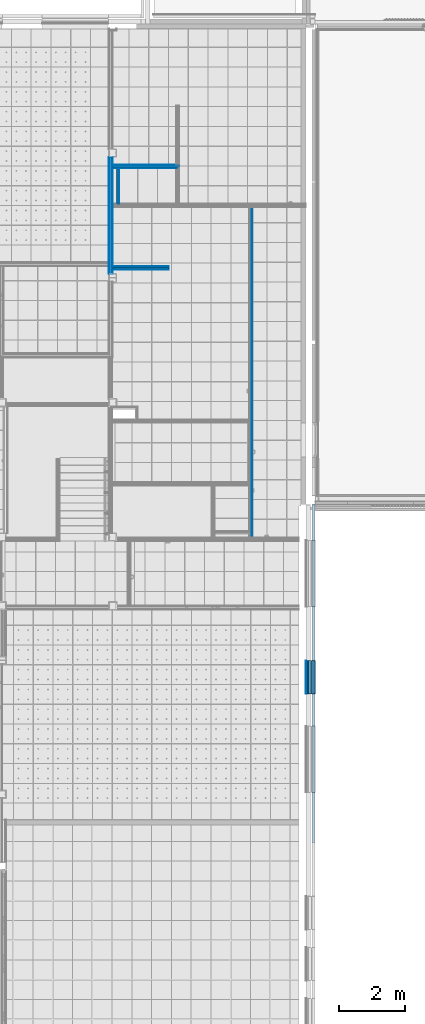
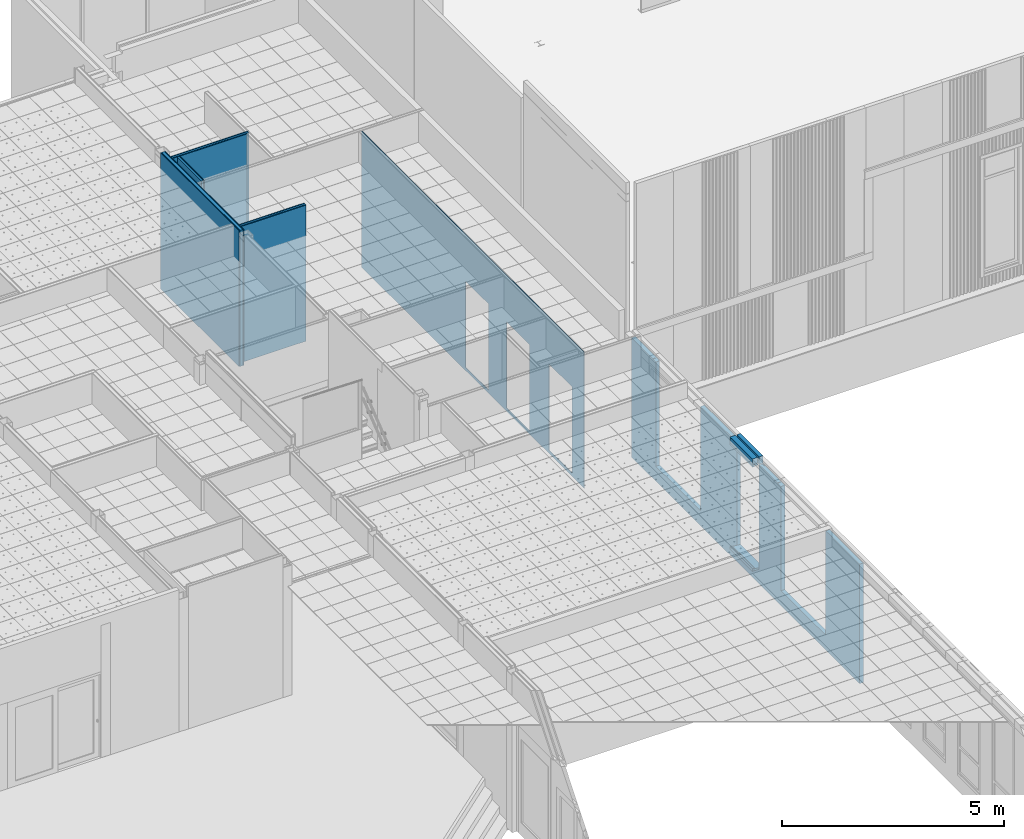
# One storey, part 86 of 338: 29 building element parts, 6 openings, 8 elements without a shape of their own.
"""IFC2X3 building model written with IfcOpenShell, lengths in millimetres."""

from ifc_helpers import new_model, entity, si_unit, converted_unit, derived_unit, money_unit, direction, frame, origin_with_axes, place, context, subcontext, project, spatial, faceted_brep, material, type_object, element, aggregate, save


model = new_model("IFC2X3")

# Units and contexts
model_context = context("Model", 3, precision=0.01, world=origin_with_axes(), true_north=direction((0.0, 1.0)))
plan_context = context("Plan", 3, precision=0.01, world=origin_with_axes(), true_north=direction((0.0, 1.0)))
body_context = subcontext(model_context, "Body", "Model", "MODEL_VIEW")
ifc_project = project(units=[si_unit("LENGTHUNIT", "METRE", prefix="MILLI"), si_unit("AREAUNIT", "SQUARE_METRE"), si_unit("VOLUMEUNIT", "CUBIC_METRE"), converted_unit("PLANEANGLEUNIT", "DEGREE", entity("IfcPlaneAngleMeasure", 0.0174532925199), si_unit("PLANEANGLEUNIT", "RADIAN"), dimensions=[0, 0, 0, 0, 0, 0, 0]), money_unit("EUR"), converted_unit("TIMEUNIT", "Year", entity("IfcTimeMeasure", 31556926.0), si_unit("TIMEUNIT", "SECOND"), dimensions=[0, 0, 1, 0, 0, 0, 0]), si_unit("MASSUNIT", "GRAM", prefix="KILO"), si_unit("THERMODYNAMICTEMPERATUREUNIT", "DEGREE_CELSIUS"), si_unit("LUMINOUSINTENSITYUNIT", "LUMEN"), si_unit("ENERGYUNIT", "JOULE", prefix="MEGA"), derived_unit("THERMALCONDUCTANCEUNIT", [(si_unit("POWERUNIT", "WATT"), 1), (si_unit("LENGTHUNIT", "METRE"), -1), (si_unit("THERMODYNAMICTEMPERATUREUNIT", "KELVIN"), -1)]), derived_unit("SPECIFICHEATCAPACITYUNIT", [(si_unit("ENERGYUNIT", "JOULE"), 1), (si_unit("MASSUNIT", "GRAM", prefix="KILO"), -1), (si_unit("THERMODYNAMICTEMPERATUREUNIT", "KELVIN"), -1)]), derived_unit("MASSDENSITYUNIT", [(si_unit("MASSUNIT", "GRAM", prefix="KILO"), 1), (si_unit("VOLUMEUNIT", "CUBIC_METRE"), -1)])], contexts=[model_context, plan_context])

# Site, building, storey
site_placement = place(None, origin_with_axes())
site = spatial("IfcSite", under=ifc_project, at=site_placement, Name="Fortuinstraat Woensdrecht", CompositionType="ELEMENT")
building_placement = place(site_placement, origin_with_axes())
building = spatial("IfcBuilding", under=site, at=building_placement, Name="IKC Fortuna", CompositionType="ELEMENT")
storey_placement = place(building_placement, origin_with_axes())
storey = spatial("IfcBuildingStorey", under=building, at=storey_placement, Name="00 begane grond", CompositionType="ELEMENT", Elevation=0.0)

# Wall, openings, building element part
wall_type_1 = type_object("IfcWallType", Name="21 MW accent 280", PredefinedType="NOTDEFINED")
wall_1_placement = place(storey_placement, frame((34833.4270571, 20912.2966283, -485.0), z_axis=(0.0, 0.0, 1.0), x_axis=(0.0, -1.0, 0.0)))
wall_1 = element("IfcWall", 1, at=wall_1_placement, inside=storey, type_object=wall_type_1, Name="21_Wand_Baksteen")
opening_1_placement = place(wall_1_placement, frame((7735.1149905, 0.0, 469.0), z_axis=(0.0, 0.0, 1.0), x_axis=(1.0, 0.0, 0.0)))
element("IfcOpeningElement", 2, at=opening_1_placement, cuts=wall_1, Name="31_Raam_A.01a", context=body_context, shape_type="Brep", body=[
    faceted_brep([(-1005.0, 560.0, 2816.0), (-1005.0, 560.0, -59.0), (-1005.0, 72.0, -59.0), (-1005.0, 72.0, 2816.0), (1005.0, 560.0, 2816.0), (1005.0, 560.0, -59.0), (1005.0, 72.0, -59.0), (1005.0, 72.0, 2816.0)], [[[0, 1, 2, 3]], [[0, 4, 5, 1]], [[1, 5, 6, 2]], [[3, 2, 6, 7]], [[4, 0, 3, 7]], [[5, 4, 7, 6]]]),
    faceted_brep([(-1005.0, -280.0, -59.0), (-1005.0, -280.0, 2816.0), (-1005.0, 72.0, 2816.0), (-1005.0, 72.0, -59.0), (1005.0, -280.0, -59.0), (1005.0, -280.0, 2816.0), (1005.0, 72.0, 2816.0), (1005.0, 72.0, -59.0)], [[[0, 1, 2, 3]], [[0, 4, 5, 1]], [[1, 5, 6, 2]], [[3, 2, 6, 7]], [[4, 0, 3, 7]], [[5, 4, 7, 6]]]),
])
opening_2_placement = place(wall_1_placement, frame((5245.00002062, 0.0, 469.0), z_axis=(0.0, 0.0, 1.0), x_axis=(1.0, 0.0, 0.0)))
element("IfcOpeningElement", 3, at=opening_2_placement, cuts=wall_1, Name="31_Raam_A.03", context=body_context, shape_type="Brep", body=[
    faceted_brep([(505.0, 72.0, 2816.0), (505.0, 72.0, -59.0), (505.0, 560.0, -59.0), (505.0, 560.0, 2816.0), (-505.0, 72.0, 2816.0), (-505.0, 72.0, -59.0), (-505.0, 560.0, -59.0), (-505.0, 560.0, 2816.0)], [[[0, 1, 2, 3]], [[0, 4, 5, 1]], [[1, 5, 6, 2]], [[3, 2, 6, 7]], [[4, 0, 3, 7]], [[5, 4, 7, 6]]]),
    faceted_brep([(505.0, 72.0, -59.0), (505.0, 72.0, 2816.0), (505.0, -280.0, 2816.0), (505.0, -280.0, -59.0), (-505.0, 72.0, -59.0), (-505.0, 72.0, 2816.0), (-505.0, -280.0, 2816.0), (-505.0, -280.0, -59.0)], [[[0, 1, 2, 3]], [[0, 4, 5, 1]], [[1, 5, 6, 2]], [[3, 2, 6, 7]], [[4, 0, 3, 7]], [[5, 4, 7, 6]]]),
])
opening_3_placement = place(wall_1_placement, frame((2095.0, 0.0, 485.0), z_axis=(0.0, 0.0, 1.0), x_axis=(1.0, 0.0, 0.0)))
element("IfcOpeningElement", 4, at=opening_3_placement, cuts=wall_1, Name="31_Deur_A.08", context=body_context, shape_type="Brep", body=[
    faceted_brep([(1005.0, 560.0, -75.0), (1005.0, 560.0, 2800.0), (1005.0, 72.0, 2800.0), (1005.0, 72.0, -75.0), (-1005.0, 560.0, -75.0), (-1005.0, 560.0, 2800.0), (-1005.0, 72.0, 2800.0), (-1005.0, 72.0, -75.0)], [[[0, 1, 2, 3]], [[0, 4, 5, 1]], [[1, 5, 6, 2]], [[3, 2, 6, 7]], [[4, 0, 3, 7]], [[5, 4, 7, 6]]]),
    faceted_brep([(1005.0, -280.0, 2800.0), (1005.0, -280.0, -75.0), (1005.0, 72.0, -75.0), (1005.0, 72.0, 2800.0), (-1005.0, -280.0, 2800.0), (-1005.0, -280.0, -75.0), (-1005.0, 72.0, -75.0), (-1005.0, 72.0, 2800.0)], [[[0, 1, 2, 3]], [[0, 4, 5, 1]], [[1, 5, 6, 2]], [[3, 2, 6, 7]], [[4, 0, 3, 7]], [[5, 4, 7, 6]]]),
])
ifc_material_1 = material(Name="Steen - Baksteen Accent")
building_element_part_1_placement = place(wall_1_placement, origin_with_axes())
building_element_part_1 = element("IfcBuildingElementPart", 5, at=building_element_part_1_placement, material=ifc_material_1, Name="Steen - Baksteen Accent", context=body_context, shape_type="Brep", body=[
    faceted_brep([(1090.0, 254.000000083, 3285.0), (1090.0, 280.0, 3285.0), (0.0, 280.0, 3285.0), (0.0, 180.0, 3285.0), (954.662957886, 180.0, 3285.0), (954.662957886, 182.000000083, 3285.0), (954.662957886, 254.000000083, 3285.0), (1090.0, 280.0, 410.0), (1090.0, 258.242640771, 3283.24264069), (1090.0, 260.000000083, 3279.0), (1090.0, 260.000000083, 3275.0), (1090.0, 180.0, 3275.0), (1090.0, 180.0, 410.0), (3100.0, 280.0, 410.0), (3100.0, 280.0, 3285.0), (4740.00002062, 280.0, 3285.0), (4740.00002062, 280.0, 410.0), (5750.00002062, 280.0, 410.0), (5750.00002062, 280.0, 3285.0), (6730.1149905, 280.0, 3285.0), (6730.1149905, 280.0, 410.0), (8740.1149905, 280.0, 410.0), (8740.1149905, 280.0, 3285.0), (10268.7932207, 280.0, 3285.0), (10268.7932207, 280.0, 0.0), (0.0, 280.0, 0.0), (0.0, 180.0, 0.0), (954.662957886, 180.0, 3275.0), (10268.7932207, 180.0, 0.0), (10268.7932207, 180.0, 3285.0), (8848.49115537, 180.0, 3285.0), (8848.49115537, 180.0, 3275.0), (8740.1149905, 180.0, 3275.0), (8740.1149905, 180.0, 410.0), (6730.1149905, 180.0, 410.0), (6730.1149905, 180.0, 3275.0), (6579.66295789, 180.0, 3275.0), (6579.66295789, 180.0, 3285.0), (5858.66295789, 180.0, 3285.0), (5858.66295789, 180.0, 3275.0), (5750.00002062, 180.0, 3275.0), (5750.00002062, 180.0, 410.0), (4740.00002062, 180.0, 410.0), (4740.00002062, 180.0, 3275.0), (4579.66295789, 180.0, 3275.0), (4579.66295789, 180.0, 3285.0), (3198.66295789, 180.0, 3285.0), (3198.66295789, 180.0, 3275.0), (3100.0, 180.0, 3275.0), (3100.0, 180.0, 410.0), (954.662957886, 260.000000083, 3279.0), (954.662957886, 258.242640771, 3283.24264069), (954.662957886, 260.000000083, 3275.0), (3100.0, 254.000000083, 3285.0), (3100.0, 260.000000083, 3275.0), (3100.0, 260.000000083, 3279.0), (3100.0, 258.242640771, 3283.24264069), (3198.66295789, 254.000000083, 3285.0), (3198.66295789, 182.000000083, 3285.0), (4579.66295789, 182.000000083, 3285.0), (4579.66295789, 254.000000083, 3285.0), (4740.00002062, 254.000000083, 3285.0), (4740.00002062, 260.000000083, 3275.0), (4740.00002062, 258.242640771, 3283.24264069), (4740.00002062, 260.000000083, 3279.0), (5750.00002062, 260.000000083, 3275.0), (5750.00002062, 260.000000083, 3279.0), (5750.00002062, 258.242640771, 3283.24264069), (5750.00002062, 254.000000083, 3285.0), (6579.66295789, 254.000000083, 3285.0), (6730.1149905, 254.000000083, 3285.0), (5858.66295789, 254.000000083, 3285.0), (5858.66295789, 182.000000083, 3285.0), (6579.66295789, 182.000000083, 3285.0), (6730.1149905, 258.242640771, 3283.24264069), (6730.1149905, 260.000000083, 3279.0), (6730.1149905, 260.000000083, 3275.0), (8740.1149905, 260.000000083, 3275.0), (8740.1149905, 260.000000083, 3279.0), (8740.1149905, 258.242640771, 3283.24264069), (8740.1149905, 254.000000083, 3285.0), (8848.49115537, 254.000000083, 3285.0), (8848.49115537, 182.000000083, 3285.0), (8848.49115537, 258.242640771, 3283.24264069), (8848.49115537, 260.000000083, 3279.0), (8848.49115537, 260.000000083, 3275.0), (6579.66295789, 260.000000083, 3275.0), (6579.66295789, 260.000000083, 3279.0), (6579.66295789, 258.242640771, 3283.24264069), (5858.66295789, 258.242640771, 3283.24264069), (5858.66295789, 260.000000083, 3279.0), (5858.66295789, 260.000000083, 3275.0), (4579.66295789, 260.000000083, 3275.0), (4579.66295789, 260.000000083, 3279.0), (4579.66295789, 258.242640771, 3283.24264069), (3198.66295789, 258.242640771, 3283.24264069), (3198.66295789, 260.000000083, 3279.0), (3198.66295789, 260.000000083, 3275.0)], [[[0, 1, 2, 3, 4, 5, 6]], [[7, 1, 0, 8, 9, 10, 11, 12]], [[13, 14, 15, 16, 17, 18, 19, 20, 21, 22, 23, 24, 25, 2, 1, 7]], [[2, 25, 26, 3]], [[12, 11, 27, 4, 3, 26, 28, 29, 30, 31, 32, 33, 34, 35, 36, 37, 38, 39, 40, 41, 42, 43, 44, 45, 46, 47, 48, 49]], [[50, 51, 6, 5, 4, 27, 52]], [[8, 0, 6, 51]], [[9, 8, 51, 50]], [[10, 9, 50, 52]], [[11, 10, 52, 27]], [[13, 7, 12, 49]], [[53, 14, 13, 49, 48, 54, 55, 56]], [[14, 53, 57, 58, 46, 45, 59, 60, 61, 15]], [[62, 43, 42, 16, 15, 61, 63, 64]], [[16, 42, 41, 17]], [[65, 66, 67, 68, 18, 17, 41, 40]], [[69, 70, 19, 18, 68, 71, 72, 38, 37, 73]], [[70, 74, 75, 76, 35, 34, 20, 19]], [[34, 33, 21, 20]], [[21, 33, 32, 77, 78, 79, 80, 22]], [[80, 81, 82, 30, 29, 23, 22]], [[28, 24, 23, 29]], [[28, 26, 25, 24]], [[31, 30, 82, 81, 83, 84, 85]], [[31, 85, 77, 32]], [[86, 36, 35, 76]], [[87, 88, 69, 73, 37, 36, 86]], [[39, 38, 72, 71, 89, 90, 91]], [[40, 39, 91, 65]], [[62, 92, 44, 43]], [[93, 94, 60, 59, 45, 44, 92]], [[47, 46, 58, 57, 95, 96, 97]], [[54, 48, 47, 97]], [[55, 54, 97, 96]], [[56, 55, 96, 95]], [[53, 56, 95, 57]], [[61, 60, 94, 63]], [[63, 94, 93, 64]], [[64, 93, 92, 62]], [[65, 91, 90, 66]], [[66, 90, 89, 67]], [[67, 89, 71, 68]], [[69, 88, 74, 70]], [[88, 87, 75, 74]], [[87, 86, 76, 75]], [[85, 84, 78, 77]], [[84, 83, 79, 78]], [[83, 81, 80, 79]]]),
])
aggregate(wall_1, [building_element_part_1])

# Wall, building element parts
wall_type_2 = type_object("IfcWallType", Name="MS125 2.75.2A 125", PredefinedType="NOTDEFINED")
wall_2_placement = place(storey_placement, frame((28851.9349765, 31449.7966283, -90.0), z_axis=(0.0, 0.0, 1.0), x_axis=(0.0, -1.0, 0.0)))
wall_2 = element("IfcWall", 6, at=wall_2_placement, inside=storey, type_object=wall_type_2, Name="22_Wand_Binnenwand")
ifc_material_2 = material(Name="Gipsplaat")
building_element_part_2_placement = place(wall_2_placement, origin_with_axes())
building_element_part_2 = element("IfcBuildingElementPart", 7, at=building_element_part_2_placement, material=ifc_material_2, Name="Gipsplaat", context=body_context, shape_type="Brep", body=[
    faceted_brep([(3535.0, 112.5, 3740.0), (3535.0, 125.0, 3740.0), (0.0, 125.0, 3740.0), (0.0, 112.5, 3740.0), (3535.0, 112.5, 0.0), (3535.0, 125.0, 0.0), (0.0, 125.0, 0.0), (0.0, 112.5, 0.0)], [[[0, 1, 2, 3]], [[0, 4, 5, 1]], [[1, 5, 6, 2]], [[3, 2, 6, 7]], [[4, 0, 3, 7]], [[5, 4, 7, 6]]]),
])
building_element_part_3_placement = place(wall_2_placement, origin_with_axes())
building_element_part_3 = element("IfcBuildingElementPart", 8, at=building_element_part_3_placement, material=ifc_material_2, Name="Gipsplaat", context=body_context, shape_type="Brep", body=[
    faceted_brep([(3535.0, 100.0, 3740.0), (3535.0, 112.5, 3740.0), (0.0, 112.5, 3740.0), (0.0, 100.0, 3740.0), (3535.0, 100.0, 0.0), (3535.0, 112.5, 0.0), (0.0, 112.5, 0.0), (0.0, 100.0, 0.0)], [[[0, 1, 2, 3]], [[0, 4, 5, 1]], [[1, 5, 6, 2]], [[3, 2, 6, 7]], [[4, 0, 3, 7]], [[5, 4, 7, 6]]]),
])
ifc_material_3 = material(Name="Isolatie - Steenwol LSW")
building_element_part_4_placement = place(wall_2_placement, origin_with_axes())
building_element_part_4 = element("IfcBuildingElementPart", 9, at=building_element_part_4_placement, material=ifc_material_3, Name="Isolatie - Steenwol LSW", context=body_context, shape_type="Brep", body=[
    faceted_brep([(3535.0, 25.0, 3740.0), (3535.0, 100.0, 3740.0), (0.0, 100.0, 3740.0), (0.0, 25.0, 3740.0), (3535.0, 25.0, 0.0), (3535.0, 100.0, 0.0), (0.0, 100.0, 0.0), (0.0, 25.0, 0.0)], [[[0, 1, 2, 3]], [[0, 4, 5, 1]], [[1, 5, 6, 2]], [[3, 2, 6, 7]], [[4, 0, 3, 7]], [[5, 4, 7, 6]]]),
])
building_element_part_5_placement = place(wall_2_placement, origin_with_axes())
building_element_part_5 = element("IfcBuildingElementPart", 10, at=building_element_part_5_placement, material=ifc_material_2, Name="Gipsplaat", context=body_context, shape_type="Brep", body=[
    faceted_brep([(3535.0, 12.5, 3740.0), (3535.0, 25.0, 3740.0), (0.0, 25.0, 3740.0), (0.0, 12.5, 3740.0), (3535.0, 12.5, 0.0), (3535.0, 25.0, 0.0), (0.0, 25.0, 0.0), (0.0, 12.5, 0.0)], [[[0, 1, 2, 3]], [[0, 4, 5, 1]], [[1, 5, 6, 2]], [[3, 2, 6, 7]], [[4, 0, 3, 7]], [[5, 4, 7, 6]]]),
])
building_element_part_6_placement = place(wall_2_placement, origin_with_axes())
building_element_part_6 = element("IfcBuildingElementPart", 11, at=building_element_part_6_placement, material=ifc_material_2, Name="Gipsplaat", context=body_context, shape_type="Brep", body=[
    faceted_brep([(3535.0, 0.0, 3740.0), (3535.0, 12.5, 3740.0), (0.0, 12.5, 3740.0), (0.0, 0.0, 3740.0), (3535.0, 0.0, 0.0), (3535.0, 12.5, 0.0), (0.0, 12.5, 0.0), (0.0, 0.0, 0.0)], [[[0, 1, 2, 3]], [[0, 4, 5, 1]], [[1, 5, 6, 2]], [[3, 2, 6, 7]], [[4, 0, 3, 7]], [[5, 4, 7, 6]]]),
])
aggregate(wall_2, [building_element_part_2, building_element_part_3, building_element_part_4, building_element_part_5, building_element_part_6])

# Wall, openings, building element part
wall_type_3 = type_object("IfcWallType", Name="MS100 2.50.2A 100", PredefinedType="NOTDEFINED")
wall_3_placement = place(storey_placement, frame((33219.6640651, 19799.7966283, -90.0), z_axis=(0.0, 0.0, 1.0), x_axis=(0.0, 1.0, 0.0)))
wall_3 = element("IfcWall", 12, at=wall_3_placement, inside=storey, type_object=wall_type_3, Name="22_Wand_Binnenwand")
opening_4_placement = place(wall_3_placement, frame((1167.71779177, 0.0, 90.0), z_axis=(0.0, 0.0, 1.0), x_axis=(1.0, 0.0, 0.0)))
element("IfcOpeningElement", 13, at=opening_4_placement, cuts=wall_3, Name="32_Deur_h.01a", context=body_context, shape_type="Brep", body=[
    faceted_brep([(-517.0, 200.0, 2367.0), (-517.0, 200.0, 0.0), (-517.0, 21.0, 0.0), (-517.0, 21.0, 2367.0), (517.0, 200.0, 2367.0), (517.0, 200.0, 0.0), (517.0, 21.0, 0.0), (517.0, 21.0, 2367.0)], [[[0, 1, 2, 3]], [[0, 4, 5, 1]], [[1, 5, 6, 2]], [[3, 2, 6, 7]], [[4, 0, 3, 7]], [[5, 4, 7, 6]]]),
    faceted_brep([(-517.0, -100.0, 0.0), (-517.0, -100.0, 2367.0), (-517.0, 21.0, 2367.0), (-517.0, 21.0, 0.0), (517.0, -100.0, 0.0), (517.0, -100.0, 2367.0), (517.0, 21.0, 2367.0), (517.0, 21.0, 0.0)], [[[0, 1, 2, 3]], [[0, 4, 5, 1]], [[1, 5, 6, 2]], [[3, 2, 6, 7]], [[4, 0, 3, 7]], [[5, 4, 7, 6]]]),
])
opening_5_placement = place(wall_3_placement, frame((3067.7169201, 0.0, 90.0), z_axis=(0.0, 0.0, 1.0), x_axis=(1.0, 0.0, 0.0)))
element("IfcOpeningElement", 14, at=opening_5_placement, cuts=wall_3, Name="32_Deur_h.01c", context=body_context, shape_type="Brep", body=[
    faceted_brep([(517.0, -200.0, 2367.0), (517.0, -200.0, 0.0), (517.0, 100.0, 0.0), (517.0, 100.0, 2367.0), (-517.0, -200.0, 2367.0), (-517.0, -200.0, 0.0), (-517.0, 100.0, 0.0), (-517.0, 100.0, 2367.0)], [[[0, 1, 2, 3]], [[0, 4, 5, 1]], [[1, 5, 6, 2]], [[3, 2, 6, 7]], [[4, 0, 3, 7]], [[5, 4, 7, 6]]]),
])
opening_6_placement = place(wall_3_placement, frame((4916.71779177, 0.0, 90.0), z_axis=(0.0, 0.0, 1.0), x_axis=(1.0, 0.0, 0.0)))
element("IfcOpeningElement", 15, at=opening_6_placement, cuts=wall_3, Name="32_Deur_h.01a", context=body_context, shape_type="Brep", body=[
    faceted_brep([(517.0, 100.0, 0.0), (517.0, 100.0, 2367.0), (517.0, -200.0, 2367.0), (517.0, -200.0, 0.0), (-517.0, 100.0, 0.0), (-517.0, 100.0, 2367.0), (-517.0, -200.0, 2367.0), (-517.0, -200.0, 0.0)], [[[0, 1, 2, 3]], [[0, 4, 5, 1]], [[1, 5, 6, 2]], [[3, 2, 6, 7]], [[4, 0, 3, 7]], [[5, 4, 7, 6]]]),
])
building_element_part_7_placement = place(wall_3_placement, origin_with_axes())
building_element_part_7 = element("IfcBuildingElementPart", 16, at=building_element_part_7_placement, material=ifc_material_2, Name="Gipsplaat", context=body_context, shape_type="Brep", body=[
    faceted_brep([(10132.6846778, 25.0, 0.0), (100.0, 25.0, 0.0), (100.0, 25.0, 3740.0), (10132.6846778, 25.0, 3740.0), (1684.71779177, 25.0, 2457.0), (650.71779177, 25.0, 2457.0), (650.71779177, 25.0, 90.0), (1684.71779177, 25.0, 90.0), (3584.7169201, 25.0, 90.0), (3584.7169201, 25.0, 2457.0), (2550.7169201, 25.0, 2457.0), (2550.7169201, 25.0, 90.0), (4399.71779177, 25.0, 90.0), (5433.71779177, 25.0, 90.0), (5433.71779177, 25.0, 2457.0), (4399.71779177, 25.0, 2457.0), (10132.6846778, 12.5, 0.0), (100.0, 12.5, 0.0), (100.0, 12.5, 3740.0), (10132.6846778, 12.5, 3740.0), (1684.71779177, 12.5, 2457.0), (650.71779177, 12.5, 2457.0), (650.71779177, 12.5, 90.0), (1684.71779177, 12.5, 90.0), (3584.7169201, 12.5, 2457.0), (3584.7169201, 12.5, 90.0), (2550.7169201, 12.5, 2457.0), (2550.7169201, 12.5, 90.0), (4399.71779177, 12.5, 90.0), (5433.71779177, 12.5, 90.0), (5433.71779177, 12.5, 2457.0), (4399.71779177, 12.5, 2457.0)], [[[0, 1, 2, 3], [4, 5, 6, 7], [8, 9, 10, 11], [12, 13, 14, 15]], [[16, 17, 1, 0]], [[18, 2, 1, 17]], [[3, 2, 18, 19]], [[19, 16, 0, 3]], [[4, 20, 21, 5]], [[21, 22, 6, 5]], [[22, 23, 7, 6]], [[7, 23, 20, 4]], [[24, 9, 8, 25]], [[26, 10, 9, 24]], [[27, 11, 10, 26]], [[25, 8, 11, 27]], [[28, 29, 13, 12]], [[29, 30, 14, 13]], [[30, 31, 15, 14]], [[31, 28, 12, 15]], [[19, 18, 17, 16], [23, 22, 21, 20], [26, 24, 25, 27], [28, 31, 30, 29]]]),
])
aggregate(wall_3, [building_element_part_7])

# Wall, building element parts
wall_4_placement = place(storey_placement, frame((28851.9349765, 31116.4813061, -90.0), z_axis=(0.0, 0.0, 1.0), x_axis=(1.0, 0.0, 0.0)))
wall_4 = element("IfcWall", 17, at=wall_4_placement, inside=storey, type_object=wall_type_3, Name="22_Wand_Binnenwand")
building_element_part_8_placement = place(wall_4_placement, origin_with_axes())
building_element_part_8 = element("IfcBuildingElementPart", 18, at=building_element_part_8_placement, material=ifc_material_2, Name="Gipsplaat", context=body_context, shape_type="Brep", body=[
    faceted_brep([(2142.43055011, 100.0, 3740.0), (125.0, 100.0, 3740.0), (125.0, 87.5, 3740.0), (2142.43055011, 87.5, 3740.0), (2142.43055011, 100.0, 0.0), (125.0, 100.0, 0.0), (125.0, 87.5, 0.0), (2142.43055011, 87.5, 0.0)], [[[0, 1, 2, 3]], [[4, 5, 1, 0]], [[2, 1, 5, 6]], [[3, 2, 6, 7]], [[3, 7, 4, 0]], [[7, 6, 5, 4]]]),
])
building_element_part_9_placement = place(wall_4_placement, origin_with_axes())
building_element_part_9 = element("IfcBuildingElementPart", 19, at=building_element_part_9_placement, material=ifc_material_2, Name="Gipsplaat", context=body_context, shape_type="Brep", body=[
    faceted_brep([(2129.93055011, 87.5, 3740.0), (125.0, 87.5, 3740.0), (125.0, 75.0, 3740.0), (2129.93055011, 75.0, 3740.0), (2129.93055011, 87.5, 0.0), (125.0, 87.5, 0.0), (125.0, 75.0, 0.0), (2129.93055011, 75.0, 0.0)], [[[0, 1, 2, 3]], [[4, 5, 1, 0]], [[2, 1, 5, 6]], [[3, 2, 6, 7]], [[3, 7, 4, 0]], [[7, 6, 5, 4]]]),
])
building_element_part_10_placement = place(wall_4_placement, origin_with_axes())
building_element_part_10 = element("IfcBuildingElementPart", 20, at=building_element_part_10_placement, material=ifc_material_3, Name="Isolatie - Steenwol LSW", context=body_context, shape_type="Brep", body=[
    faceted_brep([(2117.43055011, 75.0, 3740.0), (125.0, 75.0, 3740.0), (125.0, 25.0, 3740.0), (2117.43055011, 25.0, 3740.0), (2117.43055011, 75.0, 0.0), (125.0, 75.0, 0.0), (125.0, 25.0, 0.0), (2117.43055011, 25.0, 0.0)], [[[0, 1, 2, 3]], [[4, 5, 1, 0]], [[2, 1, 5, 6]], [[3, 2, 6, 7]], [[3, 7, 4, 0]], [[7, 6, 5, 4]]]),
])
building_element_part_11_placement = place(wall_4_placement, origin_with_axes())
building_element_part_11 = element("IfcBuildingElementPart", 21, at=building_element_part_11_placement, material=ifc_material_2, Name="Gipsplaat", context=body_context, shape_type="Brep", body=[
    faceted_brep([(2067.43055011, 25.0, 3740.0), (125.0, 25.0, 3740.0), (125.0, 12.5, 3740.0), (2067.43055011, 12.5, 3740.0), (2067.43055011, 25.0, 0.0), (125.0, 25.0, 0.0), (125.0, 12.5, 0.0), (2067.43055011, 12.5, 0.0)], [[[0, 1, 2, 3]], [[4, 5, 1, 0]], [[2, 1, 5, 6]], [[3, 2, 6, 7]], [[3, 7, 4, 0]], [[7, 6, 5, 4]]]),
])
building_element_part_12_placement = place(wall_4_placement, origin_with_axes())
building_element_part_12 = element("IfcBuildingElementPart", 22, at=building_element_part_12_placement, material=ifc_material_2, Name="Gipsplaat", context=body_context, shape_type="Brep", body=[
    faceted_brep([(2054.93055011, 12.5, 3740.0), (125.0, 12.5, 3740.0), (125.0, 0.0, 3740.0), (2054.93055011, 0.0, 3740.0), (2054.93055011, 12.5, 0.0), (125.0, 12.5, 0.0), (125.0, 0.0, 0.0), (2054.93055011, 0.0, 0.0)], [[[0, 1, 2, 3]], [[4, 5, 1, 0]], [[2, 1, 5, 6]], [[3, 2, 6, 7]], [[3, 7, 4, 0]], [[7, 6, 5, 4]]]),
])
aggregate(wall_4, [building_element_part_8, building_element_part_9, building_element_part_10, building_element_part_11, building_element_part_12])

wall_5_placement = place(storey_placement, frame((28851.9349765, 28032.5057678, -90.0), z_axis=(0.0, 0.0, 1.0), x_axis=(1.0, 0.0, 0.0)))
wall_5 = element("IfcWall", 23, at=wall_5_placement, inside=storey, type_object=wall_type_3, Name="22_Wand_Binnenwand")
building_element_part_13_placement = place(wall_5_placement, origin_with_axes())
building_element_part_13 = element("IfcBuildingElementPart", 24, at=building_element_part_13_placement, material=ifc_material_2, Name="Gipsplaat", context=body_context, shape_type="Brep", body=[
    faceted_brep([(1812.42003444, 87.5, 3740.0), (1812.42003444, 100.0, 3740.0), (125.0, 100.0, 3740.0), (125.0, 87.5, 3740.0), (1812.42003444, 87.5, 0.0), (1812.42003444, 100.0, 0.0), (125.0, 100.0, 0.0), (125.0, 87.5, 0.0)], [[[0, 1, 2, 3]], [[0, 4, 5, 1]], [[1, 5, 6, 2]], [[3, 2, 6, 7]], [[4, 0, 3, 7]], [[5, 4, 7, 6]]]),
])
building_element_part_14_placement = place(wall_5_placement, origin_with_axes())
building_element_part_14 = element("IfcBuildingElementPart", 25, at=building_element_part_14_placement, material=ifc_material_2, Name="Gipsplaat", context=body_context, shape_type="Brep", body=[
    faceted_brep([(1812.42003444, 75.0, 3740.0), (1812.42003444, 87.5, 3740.0), (125.0, 87.5, 3740.0), (125.0, 75.0, 3740.0), (1812.42003444, 75.0, 0.0), (1812.42003444, 87.5, 0.0), (125.0, 87.5, 0.0), (125.0, 75.0, 0.0)], [[[0, 1, 2, 3]], [[0, 4, 5, 1]], [[1, 5, 6, 2]], [[3, 2, 6, 7]], [[4, 0, 3, 7]], [[5, 4, 7, 6]]]),
])
building_element_part_15_placement = place(wall_5_placement, origin_with_axes())
building_element_part_15 = element("IfcBuildingElementPart", 26, at=building_element_part_15_placement, material=ifc_material_3, Name="Isolatie - Steenwol LSW", context=body_context, shape_type="Brep", body=[
    faceted_brep([(1812.42003444, 25.0, 3740.0), (1812.42003444, 75.0, 3740.0), (125.0, 75.0, 3740.0), (125.0, 25.0, 3740.0), (1812.42003444, 25.0, 0.0), (1812.42003444, 75.0, 0.0), (125.0, 75.0, 0.0), (125.0, 25.0, 0.0)], [[[0, 1, 2, 3]], [[0, 4, 5, 1]], [[1, 5, 6, 2]], [[3, 2, 6, 7]], [[4, 0, 3, 7]], [[5, 4, 7, 6]]]),
])
building_element_part_16_placement = place(wall_5_placement, origin_with_axes())
building_element_part_16 = element("IfcBuildingElementPart", 27, at=building_element_part_16_placement, material=ifc_material_2, Name="Gipsplaat", context=body_context, shape_type="Brep", body=[
    faceted_brep([(1812.42003444, 12.5, 3740.0), (1812.42003444, 25.0, 3740.0), (125.0, 25.0, 3740.0), (125.0, 12.5, 3740.0), (1812.42003444, 12.5, 0.0), (1812.42003444, 25.0, 0.0), (125.0, 25.0, 0.0), (125.0, 12.5, 0.0)], [[[0, 1, 2, 3]], [[0, 4, 5, 1]], [[1, 5, 6, 2]], [[3, 2, 6, 7]], [[4, 0, 3, 7]], [[5, 4, 7, 6]]]),
])
building_element_part_17_placement = place(wall_5_placement, origin_with_axes())
building_element_part_17 = element("IfcBuildingElementPart", 28, at=building_element_part_17_placement, material=ifc_material_2, Name="Gipsplaat", context=body_context, shape_type="Brep", body=[
    faceted_brep([(1812.42003444, 0.0, 3740.0), (1812.42003444, 12.5, 3740.0), (125.0, 12.5, 3740.0), (125.0, 0.0, 3740.0), (1812.42003444, 0.0, 0.0), (1812.42003444, 12.5, 0.0), (125.0, 12.5, 0.0), (125.0, 0.0, 0.0)], [[[0, 1, 2, 3]], [[0, 4, 5, 1]], [[1, 5, 6, 2]], [[3, 2, 6, 7]], [[4, 0, 3, 7]], [[5, 4, 7, 6]]]),
])
aggregate(wall_5, [building_element_part_13, building_element_part_14, building_element_part_15, building_element_part_16, building_element_part_17])

# Covering, building element parts
covering_type_1 = type_object("IfcCoveringType", Name="41 Latei MW rollaag 280 x 227", PredefinedType="NOTDEFINED")
covering_1_placement = place(storey_placement, frame((34973.4270641, 16172.1816378, 2800.0), z_axis=(0.0, 0.0, 1.0), x_axis=(0.0, -1.0, 0.0)))
covering_1 = element("IfcCovering", 29, at=covering_1_placement, inside=storey, type_object=covering_type_1, Name="41_Afwerking_Latei + rollaag", PredefinedType="NOTDEFINED")
ifc_material_4 = material(Name="Metaal - Staal C")
building_element_part_18_placement = place(covering_1_placement, origin_with_axes())
building_element_part_18 = element("IfcBuildingElementPart", 30, at=building_element_part_18_placement, material=ifc_material_4, Name="Metaal - Staal C", context=body_context, shape_type="Brep", body=[
    faceted_brep([(1010.0, 19.9999930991, 120.999993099), (0.0, 19.9999930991, 120.999993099), (0.0, 18.0000000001, 119.0), (1010.0, 18.0000000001, 119.0), (0.0, 19.9999930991, 117.000006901), (1010.0, 19.9999930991, 117.000006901)], [[[0, 1, 2, 3]], [[4, 1, 0, 5]], [[1, 4, 2]], [[4, 5, 3, 2]], [[5, 0, 3]]]),
    faceted_brep([(0.0, 33.5147117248, 3.51471862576), (0.0, 32.0, 7.17155621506), (0.0, 32.0, 105.0), (0.0, 29.9999930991, 107.000006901), (0.0, 29.9999930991, 112.580618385), (0.0, 36.0000000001, 106.530733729), (0.0, 36.0000000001, 3.99999999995), (0.0, 36.7573607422, 2.17156942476), (1010.0, 33.5147117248, 3.51471862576), (1010.0, 32.0, 7.17155621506), (1010.0, 32.0, 105.0), (1010.0, 29.9999930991, 107.000006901), (1010.0, 29.9999930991, 112.580618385), (1010.0, 36.0000000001, 106.530733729), (1010.0, 36.0000000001, 3.99999999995), (1010.0, 36.7573607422, 2.17156942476)], [[[0, 1, 2, 3, 4, 5, 6, 7]], [[1, 0, 8, 9]], [[1, 9, 10, 2]], [[11, 3, 2, 10]], [[12, 4, 3, 11]], [[4, 12, 13, 5]], [[5, 13, 14, 6]], [[15, 7, 6, 14]], [[0, 7, 15, 8]], [[8, 15, 14, 13, 12, 11, 10, 9]]]),
    faceted_brep([(1010.0, 119.528896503, -4.86267220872), (0.0, 119.528896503, -4.86267220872), (0.0, 135.215535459, -8.0), (1010.0, 135.215535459, -8.0), (0.0, 118.242633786, -1.75735931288), (1010.0, 118.242633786, -1.75735931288), (0.0, 113.999993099, 0.0), (0.0, 115.609685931, 0.0), (0.0, 136.0, -4.07767729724), (1010.0, 136.0, -4.07767729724), (1010.0, 115.609685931, 0.0), (1010.0, 113.999993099, 0.0)], [[[0, 1, 2, 3]], [[4, 1, 0, 5]], [[4, 6, 7, 8, 2, 1]], [[8, 9, 3, 2]], [[5, 0, 3, 9, 10, 11]], [[6, 4, 5, 11]], [[6, 11, 10, 7]], [[7, 10, 9, 8]]]),
])
ifc_material_5 = material(Name="Steen - Baksteen Accent Rollaag")
building_element_part_19_placement = place(covering_1_placement, origin_with_axes())
building_element_part_19 = element("IfcBuildingElementPart", 31, at=building_element_part_19_placement, material=ifc_material_5, Name="Steen - Baksteen Accent Rollaag", context=body_context, shape_type="Brep", body=[
    faceted_brep([(1010.0, 41.9999930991, 0.0), (0.0, 41.9999930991, 0.0), (0.0, 115.609685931, 0.0), (1010.0, 115.609685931, 0.0), (0.0, 40.0, 0.828424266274), (1010.0, 40.0, 0.828424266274), (0.0, 40.0, 210.0), (0.0, 140.0, 210.0), (0.0, 140.0, 0.0), (1010.0, 140.0, 0.0), (1010.0, 140.0, 210.0), (1010.0, 40.0, 210.0)], [[[0, 1, 2, 3]], [[4, 1, 0, 5]], [[1, 4, 6, 7, 8, 2]], [[8, 9, 3, 2]], [[5, 0, 3, 9, 10, 11]], [[4, 5, 11, 6]], [[6, 11, 10, 7]], [[7, 10, 9, 8]]]),
])
ifc_material_6 = material(Name="Metaal - Staal AFW")
building_element_part_20_placement = place(covering_1_placement, origin_with_axes())
building_element_part_20 = element("IfcBuildingElementPart", 32, at=building_element_part_20_placement, material=ifc_material_6, Name="Metaal - Staal AFW", context=body_context, shape_type="Brep", body=[
    faceted_brep([(1010.0, 19.9999930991, 4.0), (0.0, 19.9999930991, 4.0), (0.0, -58.0, 4.0), (1010.0, -58.0, 4.0), (0.0, 19.9999930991, 0.0), (1010.0, 19.9999930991, 0.0), (0.0, -58.0, 0.0), (1010.0, -58.0, 0.0)], [[[0, 1, 2, 3]], [[4, 1, 0, 5]], [[1, 4, 6, 2]], [[6, 7, 3, 2]], [[5, 0, 3, 7]], [[4, 5, 7, 6]]]),
])
ifc_material_7 = material(Name="ALG - ISOLATIE")
building_element_part_21_placement = place(covering_1_placement, origin_with_axes())
building_element_part_21 = element("IfcBuildingElementPart", 33, at=building_element_part_21_placement, material=ifc_material_7, Name="ALG - ISOLATIE", context=body_context, shape_type="Brep", body=[
    faceted_brep([(1010.0, -140.0, 53.0), (1010.0, -140.0, 210.0), (0.0, -140.0, 210.0), (0.0, -140.0, 53.0), (1010.0, -83.9999988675, 53.0000013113), (1010.0, 0.0, 53.0), (1010.0, 0.0, 210.0), (0.0, 0.0, 210.0), (0.0, 0.0, 53.0), (0.0, -83.9999988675, 53.0000013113)], [[[0, 1, 2, 3]], [[0, 4, 5, 6, 1]], [[1, 6, 7, 2]], [[3, 2, 7, 8, 9]], [[4, 0, 3, 9]], [[5, 4, 9, 8]], [[6, 5, 8, 7]]]),
])
ifc_material_8 = material(Name="Hout AFW")
building_element_part_22_placement = place(covering_1_placement, origin_with_axes())
building_element_part_22 = element("IfcBuildingElementPart", 34, at=building_element_part_22_placement, material=ifc_material_8, Name="Hout AFW", context=body_context, shape_type="Brep", body=[
    faceted_brep([(1010.0, -127.999998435, 53.0000013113), (1010.0, -83.9999988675, 53.0000013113), (0.0, -83.9999988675, 53.0000013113), (0.0, -127.999998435, 53.0000013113), (1010.0, -127.999998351, -1.28576260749e-07), (1010.0, -127.999998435, -17.0), (1010.0, -83.9999988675, -17.0), (0.0, -83.9999988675, -17.0), (0.0, -127.999998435, -17.0), (0.0, -127.999998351, -1.28576260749e-07)], [[[0, 1, 2, 3]], [[0, 4, 5, 6, 1]], [[1, 6, 7, 2]], [[3, 2, 7, 8, 9]], [[4, 0, 3, 9]], [[5, 4, 9, 8]], [[6, 5, 8, 7]]]),
])
ifc_material_9 = material(Name="Isolatie - PUR gespoten")
building_element_part_23_placement = place(covering_1_placement, origin_with_axes())
building_element_part_23 = element("IfcBuildingElementPart", 35, at=building_element_part_23_placement, material=ifc_material_9, Name="Isolatie - PUR gespoten", context=body_context, shape_type="Brep", body=[
    faceted_brep([(1010.0, -139.999999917, 53.0000002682), (1010.0, -127.999998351, 53.0000013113), (0.0, -127.999998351, 53.0000013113), (0.0, -139.999999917, 53.0000002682), (1010.0, -139.999999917, -1.28576260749e-07), (1010.0, -127.999998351, -1.28576260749e-07), (0.0, -127.999998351, -1.28576260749e-07), (0.0, -139.999999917, -1.28576260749e-07)], [[[0, 1, 2, 3]], [[0, 4, 5, 1]], [[1, 5, 6, 2]], [[3, 2, 6, 7]], [[4, 0, 3, 7]], [[5, 4, 7, 6]]]),
])
aggregate(covering_1, [building_element_part_18, building_element_part_19, building_element_part_20, building_element_part_21, building_element_part_22, building_element_part_23])

covering_type_2 = type_object("IfcCoveringType", Name="41 dorpel aan peil 280 x 75", PredefinedType="NOTDEFINED")
covering_2_placement = place(storey_placement, frame((34973.4267756, 16172.5356762, -2.5), z_axis=(0.0, 0.0, 1.0), x_axis=(0.0, -1.0, 0.0)))
covering_2 = element("IfcCovering", 36, at=covering_2_placement, inside=storey, type_object=covering_type_2, Name="41_Afwerking_Dorpel", PredefinedType="NOTDEFINED")
ifc_material_10 = material(Name="Steen - Kunststeen")
building_element_part_24_placement = place(covering_2_placement, origin_with_axes())
building_element_part_24 = element("IfcBuildingElementPart", 37, at=building_element_part_24_placement, material=ifc_material_10, Name="Steen - Kunststeen", context=body_context, shape_type="Brep", body=[
    faceted_brep([(1010.35403839, 140.0, -39.7722078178), (1010.35403839, 140.0, -72.5), (0.0, 140.0, -72.5), (0.0, 140.0, -39.7722078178), (1010.35403839, -82.0, -19.5865456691), (1010.35403839, -82.0, 2.5), (1010.35403839, -92.0, 2.5), (1010.35403839, -92.0, -72.5), (0.0, -92.0, -72.5), (0.0, -92.0, 2.5), (0.0, -82.0, 2.5), (0.0, -82.0, -19.5865456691)], [[[0, 1, 2, 3]], [[0, 4, 5, 6, 7, 1]], [[1, 7, 8, 2]], [[3, 2, 8, 9, 10, 11]], [[4, 0, 3, 11]], [[5, 4, 11, 10]], [[6, 5, 10, 9]], [[7, 6, 9, 8]]]),
])
building_element_part_25_placement = place(covering_2_placement, origin_with_axes())
building_element_part_25 = element("IfcBuildingElementPart", 38, at=building_element_part_25_placement, material=ifc_material_8, Name="Hout AFW", context=body_context, shape_type="Brep", body=[
    faceted_brep([(1010.35403839, -92.0000008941, 2.49999865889), (1010.35403839, -92.0000008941, -72.5), (0.0, -92.0000008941, -72.5), (0.0, -92.0000008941, 2.49999865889), (1010.35403839, -130.0, 2.49999865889), (1010.35403839, -130.0, -72.5), (0.0, -130.0, -72.5), (0.0, -130.0, 2.49999865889)], [[[0, 1, 2, 3]], [[0, 4, 5, 1]], [[1, 5, 6, 2]], [[3, 2, 6, 7]], [[4, 0, 3, 7]], [[5, 4, 7, 6]]]),
])
building_element_part_26_placement = place(covering_2_placement, origin_with_axes())
building_element_part_26 = element("IfcBuildingElementPart", 39, at=building_element_part_26_placement, material=ifc_material_9, Name="Isolatie - PUR gespoten", context=body_context, shape_type="Brep", body=[
    faceted_brep([(1010.35403839, -129.999999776, -72.5), (1010.35403839, -139.999999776, -72.5), (0.0, -139.999999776, -72.5), (0.0, -129.999999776, -72.5), (1010.35403839, -129.999999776, 2.49999888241), (1010.35403839, -139.999999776, 2.5), (0.0, -139.999999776, 2.5), (0.0, -129.999999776, 2.49999888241)], [[[0, 1, 2, 3]], [[0, 4, 5, 1]], [[1, 5, 6, 2]], [[3, 2, 6, 7]], [[4, 0, 3, 7]], [[5, 4, 7, 6]]]),
])
aggregate(covering_2, [building_element_part_24, building_element_part_25, building_element_part_26])

# Wall, building element parts
wall_type_4 = type_object("IfcWallType", Name="MS75 50.2A 75", PredefinedType="NOTDEFINED")
wall_6_placement = place(storey_placement, frame((29169.4349765, 29932.4813061, -90.0), z_axis=(0.0, 0.0, 1.0), x_axis=(0.0, 1.0, 0.0)))
wall_6 = element("IfcWall", 40, at=wall_6_placement, inside=storey, type_object=wall_type_4, Name="22_Wand_Binnenwand")
building_element_part_27_placement = place(wall_6_placement, origin_with_axes())
building_element_part_27 = element("IfcBuildingElementPart", 41, at=building_element_part_27_placement, material=ifc_material_3, Name="Isolatie - Steenwol LSW", context=body_context, shape_type="Brep", body=[
    faceted_brep([(1184.0, 25.0, 0.0), (100.0, 25.0, 0.0), (100.0, 75.0, 0.0), (1184.0, 75.0, 0.0), (1184.0, 25.0, 3740.0), (100.0, 25.0, 3740.0), (100.0, 75.0, 3740.0), (1184.0, 75.0, 3740.0)], [[[0, 1, 2, 3]], [[4, 5, 1, 0]], [[2, 1, 5, 6]], [[3, 2, 6, 7]], [[3, 7, 4, 0]], [[7, 6, 5, 4]]]),
])
building_element_part_28_placement = place(wall_6_placement, origin_with_axes())
building_element_part_28 = element("IfcBuildingElementPart", 42, at=building_element_part_28_placement, material=ifc_material_2, Name="Gipsplaat", context=body_context, shape_type="Brep", body=[
    faceted_brep([(1184.0, 12.5, 0.0), (100.0, 12.5, 0.0), (100.0, 25.0, 0.0), (1184.0, 25.0, 0.0), (1184.0, 12.5, 3740.0), (100.0, 12.5, 3740.0), (100.0, 25.0, 3740.0), (1184.0, 25.0, 3740.0)], [[[0, 1, 2, 3]], [[4, 5, 1, 0]], [[2, 1, 5, 6]], [[3, 2, 6, 7]], [[3, 7, 4, 0]], [[7, 6, 5, 4]]]),
])
building_element_part_29_placement = place(wall_6_placement, origin_with_axes())
building_element_part_29 = element("IfcBuildingElementPart", 43, at=building_element_part_29_placement, material=ifc_material_2, Name="Gipsplaat", context=body_context, shape_type="Brep", body=[
    faceted_brep([(1184.0, 0.0, 0.0), (100.0, 0.0, 0.0), (100.0, 12.5, 0.0), (1184.0, 12.5, 0.0), (1184.0, 0.0, 3740.0), (100.0, 0.0, 3740.0), (100.0, 12.5, 3740.0), (1184.0, 12.5, 3740.0)], [[[0, 1, 2, 3]], [[4, 5, 1, 0]], [[2, 1, 5, 6]], [[3, 2, 6, 7]], [[3, 7, 4, 0]], [[7, 6, 5, 4]]]),
])
aggregate(wall_6, [building_element_part_27, building_element_part_28, building_element_part_29])

save(model, "model.ifc")
